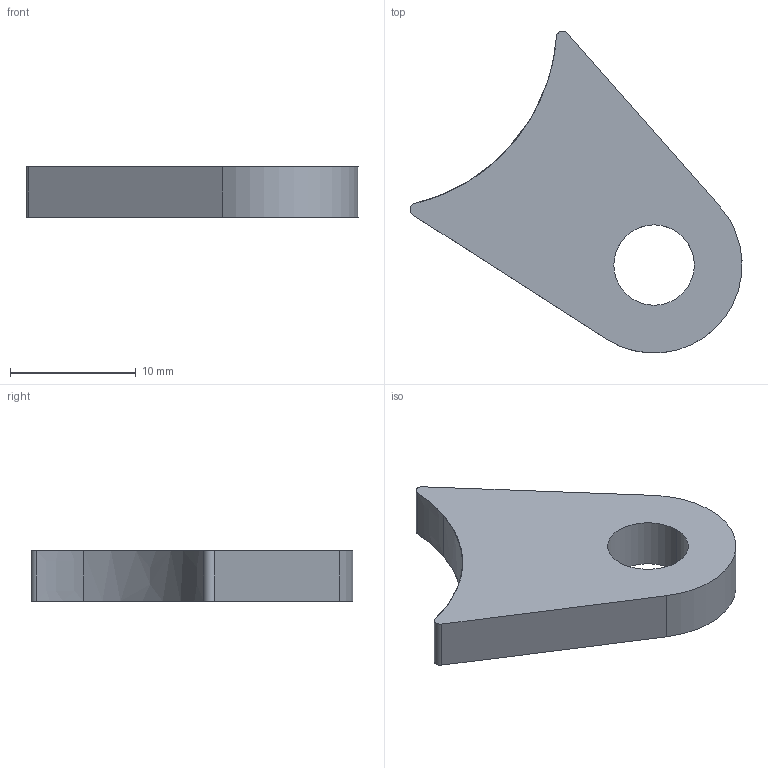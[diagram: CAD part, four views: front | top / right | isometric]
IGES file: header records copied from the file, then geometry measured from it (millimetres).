
Start section: START RECORD GO HERE.
Global section: file name: 20M_FL_RU.igs; native system: IBM CATIA IGES - CATIA Version 5 Release 19 ; preprocessor: CATIA Version 5 Release 19 ; author: alexb; organization: LAPTOP-PR6NE7IP; date: 20191216.211007; units: millimetre
Bounding box: 26.41 x 25.6 x 4 mm (x, y, z)
Surface area: 1000.9 mm2 (no closed solid volume)
Topology: 0 solids, 0 shells, 11 faces, 54 edges, 56 vertices
Faces by surface type: revolution 5, plane 4, extrusion 2
